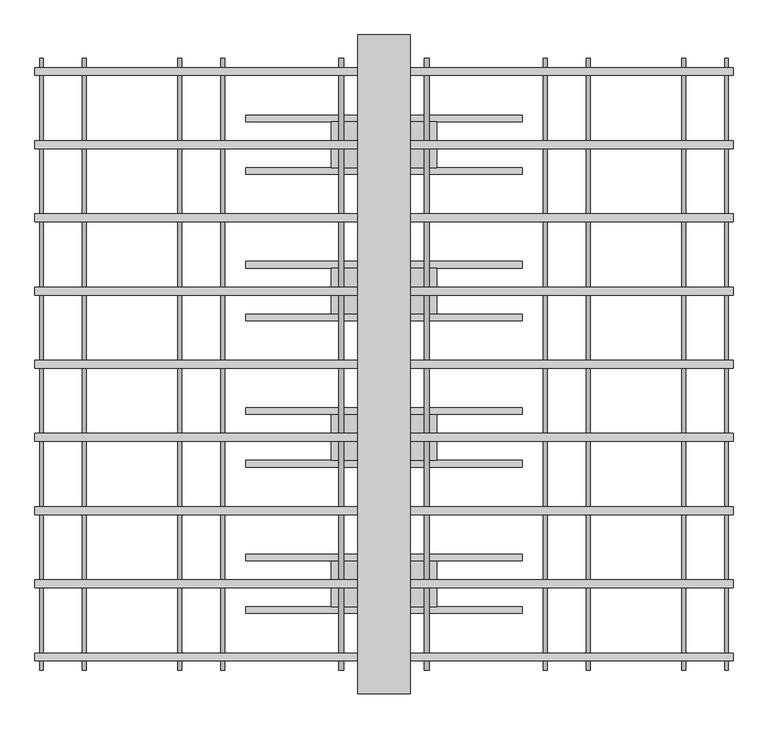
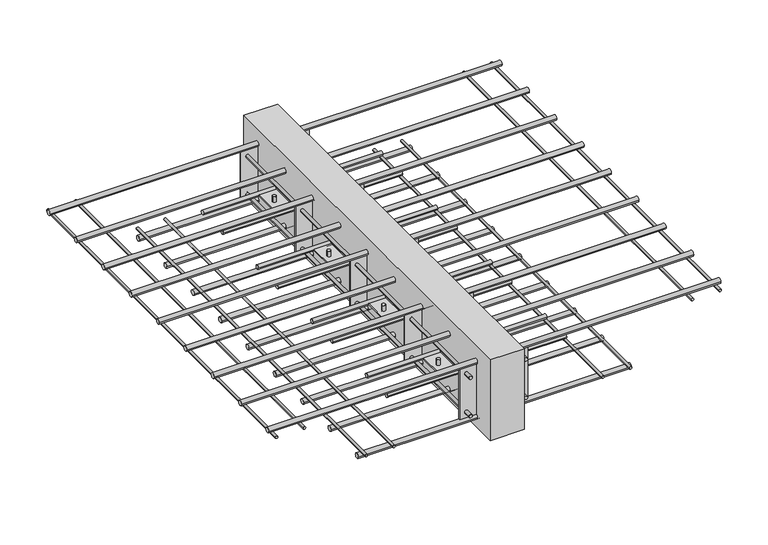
"""IFC4 building model written with IfcOpenShell, lengths in millimetres: fastener geometry, ACINOXplus_Typenreihe_K : KF+ S4."""

from ifc_helpers import new_model, si_unit, point, frame, frame_2d, origin, place, context, project, spatial, polyline, circle_curve, trimmed, segment, composite_curve, outline, extrude, source, transform, mapped, element, save
from ifc_brep_helpers import plane_surface, cylinder_surface, advanced_brep


def fastener_674a2dee(model_context):
    return source(origin(), model_context, "Body", "SolidModel", [
        extrude(outline(composite_curve([segment(trimmed(circle_curve(frame_2d((-373.3333333, -104.5)), 5.0), [point((-378.3333333, -104.5))], [point((-368.3333333, -104.5))], False, "CARTESIAN"), True, "CONTINUOUS"), segment(trimmed(circle_curve(frame_2d((-373.3333333, -104.5)), 5.0), [point((-368.3333333, -104.5))], [point((-378.3333333, -104.5))], False, "CARTESIAN"), True, "CONTINUOUS")], self_intersect=False)), frame((-210.0, 0.0, 0.0), z_axis=(1.0, 0.0, 0.0), x_axis=(0.0, 1.0, 0.0)), (0.0, 0.0, 1.0), 420.0),
        extrude(outline(composite_curve([segment(trimmed(circle_curve(frame_2d((-293.3333333, -104.5)), 5.0), [point((-298.3333333, -104.5))], [point((-288.3333333, -104.5))], False, "CARTESIAN"), True, "CONTINUOUS"), segment(trimmed(circle_curve(frame_2d((-293.3333333, -104.5)), 5.0), [point((-288.3333333, -104.5))], [point((-298.3333333, -104.5))], False, "CARTESIAN"), True, "CONTINUOUS")], self_intersect=False)), frame((-210.0, 0.0, 0.0), z_axis=(1.0, 0.0, 0.0), x_axis=(0.0, 1.0, 0.0)), (0.0, 0.0, 1.0), 420.0),
        advanced_brep(
        [(-69.0, -333.3333333, -89.5), (-61.0, -333.3333333, -89.5), (61.0, -333.3333333, -89.5), (69.0, -333.3333333, -89.5), (-69.0, -333.3333333, -119.5), (-61.0, -333.3333333, -119.5), (61.0, -333.3333333, -119.5), (69.0, -333.3333333, -119.5), (-69.0, -333.3333333, -103.0), (-61.0, -333.3333333, -103.0), (-61.0, -333.3333333, -106.0), (-69.0, -333.3333333, -106.0), (61.0, -333.3333333, -103.0), (69.0, -333.3333333, -103.0), (69.0, -333.3333333, -106.0), (61.0, -333.3333333, -106.0), (80.0, -298.3333333, -103.0), (-80.0, -298.3333333, -103.0), (-80.0, -368.3333333, -103.0), (80.0, -368.3333333, -103.0), (80.0, -298.3333333, -106.0), (80.0, -368.3333333, -106.0), (-80.0, -368.3333333, -106.0), (-80.0, -298.3333333, -106.0)],
        [
            (0, 1, circle_curve(frame((-65.0, -333.3333333, -89.5), z_axis=(0.0, 0.0, 1.0), x_axis=(1.0, 0.0, 0.0)), 4.0)),
            (1, 0, circle_curve(frame((-65.0, -333.3333333, -89.5), z_axis=(0.0, 0.0, 1.0), x_axis=(1.0, 0.0, 0.0)), 4.0)),
            (2, 3, circle_curve(frame((65.0, -333.3333333, -89.5), z_axis=(0.0, 0.0, 1.0), x_axis=(1.0, 0.0, 0.0)), 4.0)),
            (3, 2, circle_curve(frame((65.0, -333.3333333, -89.5), z_axis=(0.0, 0.0, 1.0), x_axis=(1.0, 0.0, 0.0)), 4.0)),
            (4, 5, circle_curve(frame((-65.0, -333.3333333, -119.5), z_axis=(0.0, 0.0, -1.0), x_axis=(1.0, 0.0, 0.0)), 4.0)),
            (5, 4, circle_curve(frame((-65.0, -333.3333333, -119.5), z_axis=(0.0, 0.0, -1.0), x_axis=(1.0, 0.0, 0.0)), 4.0)),
            (6, 7, circle_curve(frame((65.0, -333.3333333, -119.5), z_axis=(0.0, 0.0, -1.0), x_axis=(1.0, 0.0, 0.0)), 4.0)),
            (7, 6, circle_curve(frame((65.0, -333.3333333, -119.5), z_axis=(0.0, 0.0, -1.0), x_axis=(1.0, 0.0, 0.0)), 4.0)),
            (0, 8),
            (8, 9, circle_curve(frame((-65.0, -333.3333333, -103.0), z_axis=(0.0, 0.0, 1.0), x_axis=(1.0, 0.0, 0.0)), 4.0)),
            (9, 1),
            (5, 10),
            (10, 11, circle_curve(frame((-65.0, -333.3333333, -106.0), z_axis=(0.0, 0.0, -1.0), x_axis=(1.0, 0.0, 0.0)), 4.0)),
            (11, 4),
            (9, 8, circle_curve(frame((-65.0, -333.3333333, -103.0), z_axis=(0.0, 0.0, 1.0), x_axis=(1.0, 0.0, 0.0)), 4.0)),
            (11, 10, circle_curve(frame((-65.0, -333.3333333, -106.0), z_axis=(0.0, 0.0, -1.0), x_axis=(1.0, 0.0, 0.0)), 4.0)),
            (2, 12),
            (12, 13, circle_curve(frame((65.0, -333.3333333, -103.0), z_axis=(0.0, 0.0, 1.0), x_axis=(1.0, 0.0, 0.0)), 4.0)),
            (13, 3),
            (7, 14),
            (14, 15, circle_curve(frame((65.0, -333.3333333, -106.0), z_axis=(0.0, 0.0, -1.0), x_axis=(1.0, 0.0, 0.0)), 4.0)),
            (15, 6),
            (13, 12, circle_curve(frame((65.0, -333.3333333, -103.0), z_axis=(0.0, 0.0, 1.0), x_axis=(1.0, 0.0, 0.0)), 4.0)),
            (15, 14, circle_curve(frame((65.0, -333.3333333, -106.0), z_axis=(0.0, 0.0, -1.0), x_axis=(1.0, 0.0, 0.0)), 4.0)),
            (16, 17),
            (17, 18),
            (18, 19),
            (19, 16),
            (20, 21),
            (21, 22),
            (22, 23),
            (23, 20),
            (16, 20),
            (23, 17),
            (22, 18),
            (21, 19),
        ],
        [
            plane_surface(frame((-61.0, -333.3333333, -89.5), z_axis=(0.0, 0.0, 1.0), x_axis=(0.0, 1.0, 0.0))),
            plane_surface(frame((-61.0, -333.3333333, -119.5), z_axis=(0.0, 0.0, -1.0), x_axis=(0.0, -1.0, 0.0))),
            cylinder_surface(frame((-65.0, -333.3333333, -119.5), z_axis=(0.0, 0.0, 1.0), x_axis=(1.0, 0.0, 0.0)), 4.0),
            cylinder_surface(frame((65.0, -333.3333333, -104.5), z_axis=(0.0, 0.0, 1.0), x_axis=(1.0, 0.0, 0.0)), 4.0),
            plane_surface(frame((-80.0, -298.3333333, -103.0), z_axis=(0.0, 0.0, 1.0), x_axis=(-1.0, 0.0, 0.0))),
            plane_surface(frame((-80.0, -298.3333333, -106.0), z_axis=(0.0, 0.0, -1.0), x_axis=(1.0, 0.0, 0.0))),
            plane_surface(frame((80.0, -298.3333333, -103.0), z_axis=(0.0, 1.0, 0.0), x_axis=(0.0, 0.0, -1.0))),
            plane_surface(frame((-80.0, -298.3333333, -103.0), z_axis=(-1.0, 0.0, 0.0), x_axis=(0.0, 0.0, -1.0))),
            plane_surface(frame((-80.0, -368.3333333, -103.0), z_axis=(0.0, -1.0, 0.0), x_axis=(0.0, 0.0, -1.0))),
            plane_surface(frame((80.0, -368.3333333, -103.0), z_axis=(1.0, 0.0, 0.0), x_axis=(0.0, 0.0, -1.0))),
        ],
        [
            (0, [[1, 2]]),
            (0, [[3, 4]]),
            (1, [[5, 6]]),
            (1, [[7, 8]]),
            (2, [[-1, 9, 10, 11]]),
            (2, [[-6, 12, 13, 14]]),
            (2, [[-2, -11, 15, -9]]),
            (2, [[-5, -14, 16, -12]]),
            (3, [[-3, 17, 18, 19]]),
            (3, [[-8, 20, 21, 22]]),
            (3, [[-4, -19, 23, -17]]),
            (3, [[-7, -22, 24, -20]]),
            (4, [[25, 26, 27, 28], [-10, -15], [-18, -23]]),
            (5, [[29, 30, 31, 32], [-13, -16], [-21, -24]]),
            (6, [[-25, 33, -32, 34]]),
            (7, [[-26, -34, -31, 35]]),
            (8, [[-27, -35, -30, 36]]),
            (9, [[-28, -36, -29, -33]]),
        ],
    ),
        extrude(outline(composite_curve([segment(trimmed(circle_curve(frame_2d((293.3333333, -104.5)), 5.0), [point((288.3333333, -104.5))], [point((298.3333333, -104.5))], False, "CARTESIAN"), True, "CONTINUOUS"), segment(trimmed(circle_curve(frame_2d((293.3333333, -104.5)), 5.0), [point((298.3333333, -104.5))], [point((288.3333333, -104.5))], False, "CARTESIAN"), True, "CONTINUOUS")], self_intersect=False)), frame((-210.0, 0.0, 0.0), z_axis=(1.0, 0.0, 0.0), x_axis=(0.0, 1.0, 0.0)), (0.0, 0.0, 1.0), 420.0),
        extrude(outline(composite_curve([segment(trimmed(circle_curve(frame_2d((373.3333333, -104.5)), 5.0), [point((368.3333333, -104.5))], [point((378.3333333, -104.5))], False, "CARTESIAN"), True, "CONTINUOUS"), segment(trimmed(circle_curve(frame_2d((373.3333333, -104.5)), 5.0), [point((378.3333333, -104.5))], [point((368.3333333, -104.5))], False, "CARTESIAN"), True, "CONTINUOUS")], self_intersect=False)), frame((-210.0, 0.0, 0.0), z_axis=(1.0, 0.0, 0.0), x_axis=(0.0, 1.0, 0.0)), (0.0, 0.0, 1.0), 420.0),
        advanced_brep(
        [(-69.0, 333.3333333, -89.5), (-61.0, 333.3333333, -89.5), (61.0, 333.3333333, -89.5), (69.0, 333.3333333, -89.5), (-69.0, 333.3333333, -119.5), (-61.0, 333.3333333, -119.5), (61.0, 333.3333333, -119.5), (69.0, 333.3333333, -119.5), (-69.0, 333.3333333, -103.0), (-61.0, 333.3333333, -103.0), (-61.0, 333.3333333, -106.0), (-69.0, 333.3333333, -106.0), (61.0, 333.3333333, -103.0), (69.0, 333.3333333, -103.0), (69.0, 333.3333333, -106.0), (61.0, 333.3333333, -106.0), (80.0, 368.3333333, -103.0), (-80.0, 368.3333333, -103.0), (-80.0, 298.3333333, -103.0), (80.0, 298.3333333, -103.0), (80.0, 368.3333333, -106.0), (80.0, 298.3333333, -106.0), (-80.0, 298.3333333, -106.0), (-80.0, 368.3333333, -106.0)],
        [
            (0, 1, circle_curve(frame((-65.0, 333.3333333, -89.5), z_axis=(0.0, 0.0, 1.0), x_axis=(1.0, 0.0, 0.0)), 4.0)),
            (1, 0, circle_curve(frame((-65.0, 333.3333333, -89.5), z_axis=(0.0, 0.0, 1.0), x_axis=(1.0, 0.0, 0.0)), 4.0)),
            (2, 3, circle_curve(frame((65.0, 333.3333333, -89.5), z_axis=(0.0, 0.0, 1.0), x_axis=(1.0, 0.0, 0.0)), 4.0)),
            (3, 2, circle_curve(frame((65.0, 333.3333333, -89.5), z_axis=(0.0, 0.0, 1.0), x_axis=(1.0, 0.0, 0.0)), 4.0)),
            (4, 5, circle_curve(frame((-65.0, 333.3333333, -119.5), z_axis=(0.0, 0.0, -1.0), x_axis=(1.0, 0.0, 0.0)), 4.0)),
            (5, 4, circle_curve(frame((-65.0, 333.3333333, -119.5), z_axis=(0.0, 0.0, -1.0), x_axis=(1.0, 0.0, 0.0)), 4.0)),
            (6, 7, circle_curve(frame((65.0, 333.3333333, -119.5), z_axis=(0.0, 0.0, -1.0), x_axis=(1.0, 0.0, 0.0)), 4.0)),
            (7, 6, circle_curve(frame((65.0, 333.3333333, -119.5), z_axis=(0.0, 0.0, -1.0), x_axis=(1.0, 0.0, 0.0)), 4.0)),
            (0, 8),
            (8, 9, circle_curve(frame((-65.0, 333.3333333, -103.0), z_axis=(0.0, 0.0, 1.0), x_axis=(1.0, 0.0, 0.0)), 4.0)),
            (9, 1),
            (5, 10),
            (10, 11, circle_curve(frame((-65.0, 333.3333333, -106.0), z_axis=(0.0, 0.0, -1.0), x_axis=(1.0, 0.0, 0.0)), 4.0)),
            (11, 4),
            (9, 8, circle_curve(frame((-65.0, 333.3333333, -103.0), z_axis=(0.0, 0.0, 1.0), x_axis=(1.0, 0.0, 0.0)), 4.0)),
            (11, 10, circle_curve(frame((-65.0, 333.3333333, -106.0), z_axis=(0.0, 0.0, -1.0), x_axis=(1.0, 0.0, 0.0)), 4.0)),
            (2, 12),
            (12, 13, circle_curve(frame((65.0, 333.3333333, -103.0), z_axis=(0.0, 0.0, 1.0), x_axis=(1.0, 0.0, 0.0)), 4.0)),
            (13, 3),
            (7, 14),
            (14, 15, circle_curve(frame((65.0, 333.3333333, -106.0), z_axis=(0.0, 0.0, -1.0), x_axis=(1.0, 0.0, 0.0)), 4.0)),
            (15, 6),
            (13, 12, circle_curve(frame((65.0, 333.3333333, -103.0), z_axis=(0.0, 0.0, 1.0), x_axis=(1.0, 0.0, 0.0)), 4.0)),
            (15, 14, circle_curve(frame((65.0, 333.3333333, -106.0), z_axis=(0.0, 0.0, -1.0), x_axis=(1.0, 0.0, 0.0)), 4.0)),
            (16, 17),
            (17, 18),
            (18, 19),
            (19, 16),
            (20, 21),
            (21, 22),
            (22, 23),
            (23, 20),
            (16, 20),
            (23, 17),
            (22, 18),
            (21, 19),
        ],
        [
            plane_surface(frame((-61.0, 333.3333333, -89.5), z_axis=(0.0, 0.0, 1.0), x_axis=(0.0, 1.0, 0.0))),
            plane_surface(frame((-61.0, 333.3333333, -119.5), z_axis=(0.0, 0.0, -1.0), x_axis=(0.0, -1.0, 0.0))),
            cylinder_surface(frame((-65.0, 333.3333333, -119.5), z_axis=(0.0, 0.0, 1.0), x_axis=(1.0, 0.0, 0.0)), 4.0),
            cylinder_surface(frame((65.0, 333.3333333, -104.5), z_axis=(0.0, 0.0, 1.0), x_axis=(1.0, 0.0, 0.0)), 4.0),
            plane_surface(frame((-80.0, 368.3333333, -103.0), z_axis=(0.0, 0.0, 1.0), x_axis=(-1.0, 0.0, 0.0))),
            plane_surface(frame((-80.0, 368.3333333, -106.0), z_axis=(0.0, 0.0, -1.0), x_axis=(1.0, 0.0, 0.0))),
            plane_surface(frame((80.0, 368.3333333, -103.0), z_axis=(0.0, 1.0, 0.0), x_axis=(0.0, 0.0, -1.0))),
            plane_surface(frame((-80.0, 368.3333333, -103.0), z_axis=(-1.0, 0.0, 0.0), x_axis=(0.0, 0.0, -1.0))),
            plane_surface(frame((-80.0, 298.3333333, -103.0), z_axis=(0.0, -1.0, 0.0), x_axis=(0.0, 0.0, -1.0))),
            plane_surface(frame((80.0, 298.3333333, -103.0), z_axis=(1.0, 0.0, 0.0), x_axis=(0.0, 0.0, -1.0))),
        ],
        [
            (0, [[1, 2]]),
            (0, [[3, 4]]),
            (1, [[5, 6]]),
            (1, [[7, 8]]),
            (2, [[-1, 9, 10, 11]]),
            (2, [[-6, 12, 13, 14]]),
            (2, [[-2, -11, 15, -9]]),
            (2, [[-5, -14, 16, -12]]),
            (3, [[-3, 17, 18, 19]]),
            (3, [[-8, 20, 21, 22]]),
            (3, [[-4, -19, 23, -17]]),
            (3, [[-7, -22, 24, -20]]),
            (4, [[25, 26, 27, 28], [-10, -15], [-18, -23]]),
            (5, [[29, 30, 31, 32], [-13, -16], [-21, -24]]),
            (6, [[-25, 33, -32, 34]]),
            (7, [[-26, -34, -31, 35]]),
            (8, [[-27, -35, -30, 36]]),
            (9, [[-28, -36, -29, -33]]),
        ],
    ),
        extrude(outline(composite_curve([segment(trimmed(circle_curve(frame_2d((-151.1111111, -104.5)), 5.0), [point((-156.1111111, -104.5))], [point((-146.1111111, -104.5))], False, "CARTESIAN"), True, "CONTINUOUS"), segment(trimmed(circle_curve(frame_2d((-151.1111111, -104.5)), 5.0), [point((-146.1111111, -104.5))], [point((-156.1111111, -104.5))], False, "CARTESIAN"), True, "CONTINUOUS")], self_intersect=False)), frame((-210.0, 0.0, 0.0), z_axis=(1.0, 0.0, 0.0), x_axis=(0.0, 1.0, 0.0)), (0.0, 0.0, 1.0), 420.0),
        extrude(outline(composite_curve([segment(trimmed(circle_curve(frame_2d((-71.1111111, -104.5)), 5.0), [point((-76.1111111, -104.5))], [point((-66.1111111, -104.5))], False, "CARTESIAN"), True, "CONTINUOUS"), segment(trimmed(circle_curve(frame_2d((-71.1111111, -104.5)), 5.0), [point((-66.1111111, -104.5))], [point((-76.1111111, -104.5))], False, "CARTESIAN"), True, "CONTINUOUS")], self_intersect=False)), frame((-210.0, 0.0, 0.0), z_axis=(1.0, 0.0, 0.0), x_axis=(0.0, 1.0, 0.0)), (0.0, 0.0, 1.0), 420.0),
        advanced_brep(
        [(-69.0, -111.1111111, -89.5), (-61.0, -111.1111111, -89.5), (61.0, -111.1111111, -89.5), (69.0, -111.1111111, -89.5), (-69.0, -111.1111111, -119.5), (-61.0, -111.1111111, -119.5), (61.0, -111.1111111, -119.5), (69.0, -111.1111111, -119.5), (-69.0, -111.1111111, -103.0), (-61.0, -111.1111111, -103.0), (-61.0, -111.1111111, -106.0), (-69.0, -111.1111111, -106.0), (61.0, -111.1111111, -103.0), (69.0, -111.1111111, -103.0), (69.0, -111.1111111, -106.0), (61.0, -111.1111111, -106.0), (80.0, -76.1111111, -103.0), (-80.0, -76.1111111, -103.0), (-80.0, -146.1111111, -103.0), (80.0, -146.1111111, -103.0), (80.0, -76.1111111, -106.0), (80.0, -146.1111111, -106.0), (-80.0, -146.1111111, -106.0), (-80.0, -76.1111111, -106.0)],
        [
            (0, 1, circle_curve(frame((-65.0, -111.1111111, -89.5), z_axis=(0.0, 0.0, 1.0), x_axis=(1.0, 0.0, 0.0)), 4.0)),
            (1, 0, circle_curve(frame((-65.0, -111.1111111, -89.5), z_axis=(0.0, 0.0, 1.0), x_axis=(1.0, 0.0, 0.0)), 4.0)),
            (2, 3, circle_curve(frame((65.0, -111.1111111, -89.5), z_axis=(0.0, 0.0, 1.0), x_axis=(1.0, 0.0, 0.0)), 4.0)),
            (3, 2, circle_curve(frame((65.0, -111.1111111, -89.5), z_axis=(0.0, 0.0, 1.0), x_axis=(1.0, 0.0, 0.0)), 4.0)),
            (4, 5, circle_curve(frame((-65.0, -111.1111111, -119.5), z_axis=(0.0, 0.0, -1.0), x_axis=(1.0, 0.0, 0.0)), 4.0)),
            (5, 4, circle_curve(frame((-65.0, -111.1111111, -119.5), z_axis=(0.0, 0.0, -1.0), x_axis=(1.0, 0.0, 0.0)), 4.0)),
            (6, 7, circle_curve(frame((65.0, -111.1111111, -119.5), z_axis=(0.0, 0.0, -1.0), x_axis=(1.0, 0.0, 0.0)), 4.0)),
            (7, 6, circle_curve(frame((65.0, -111.1111111, -119.5), z_axis=(0.0, 0.0, -1.0), x_axis=(1.0, 0.0, 0.0)), 4.0)),
            (0, 8),
            (8, 9, circle_curve(frame((-65.0, -111.1111111, -103.0), z_axis=(0.0, 0.0, 1.0), x_axis=(1.0, 0.0, 0.0)), 4.0)),
            (9, 1),
            (5, 10),
            (10, 11, circle_curve(frame((-65.0, -111.1111111, -106.0), z_axis=(0.0, 0.0, -1.0), x_axis=(1.0, 0.0, 0.0)), 4.0)),
            (11, 4),
            (9, 8, circle_curve(frame((-65.0, -111.1111111, -103.0), z_axis=(0.0, 0.0, 1.0), x_axis=(1.0, 0.0, 0.0)), 4.0)),
            (11, 10, circle_curve(frame((-65.0, -111.1111111, -106.0), z_axis=(0.0, 0.0, -1.0), x_axis=(1.0, 0.0, 0.0)), 4.0)),
            (2, 12),
            (12, 13, circle_curve(frame((65.0, -111.1111111, -103.0), z_axis=(0.0, 0.0, 1.0), x_axis=(1.0, 0.0, 0.0)), 4.0)),
            (13, 3),
            (7, 14),
            (14, 15, circle_curve(frame((65.0, -111.1111111, -106.0), z_axis=(0.0, 0.0, -1.0), x_axis=(1.0, 0.0, 0.0)), 4.0)),
            (15, 6),
            (13, 12, circle_curve(frame((65.0, -111.1111111, -103.0), z_axis=(0.0, 0.0, 1.0), x_axis=(1.0, 0.0, 0.0)), 4.0)),
            (15, 14, circle_curve(frame((65.0, -111.1111111, -106.0), z_axis=(0.0, 0.0, -1.0), x_axis=(1.0, 0.0, 0.0)), 4.0)),
            (16, 17),
            (17, 18),
            (18, 19),
            (19, 16),
            (20, 21),
            (21, 22),
            (22, 23),
            (23, 20),
            (16, 20),
            (23, 17),
            (22, 18),
            (21, 19),
        ],
        [
            plane_surface(frame((-61.0, -111.1111111, -89.5), z_axis=(0.0, 0.0, 1.0), x_axis=(0.0, 1.0, 0.0))),
            plane_surface(frame((-61.0, -111.1111111, -119.5), z_axis=(0.0, 0.0, -1.0), x_axis=(0.0, -1.0, 0.0))),
            cylinder_surface(frame((-65.0, -111.1111111, -119.5), z_axis=(0.0, 0.0, 1.0), x_axis=(1.0, 0.0, 0.0)), 4.0),
            cylinder_surface(frame((65.0, -111.1111111, -104.5), z_axis=(0.0, 0.0, 1.0), x_axis=(1.0, 0.0, 0.0)), 4.0),
            plane_surface(frame((-80.0, -76.1111111, -103.0), z_axis=(0.0, 0.0, 1.0), x_axis=(-1.0, 0.0, 0.0))),
            plane_surface(frame((-80.0, -76.1111111, -106.0), z_axis=(0.0, 0.0, -1.0), x_axis=(1.0, 0.0, 0.0))),
            plane_surface(frame((80.0, -76.1111111, -103.0), z_axis=(0.0, 1.0, 0.0), x_axis=(0.0, 0.0, -1.0))),
            plane_surface(frame((-80.0, -76.1111111, -103.0), z_axis=(-1.0, 0.0, 0.0), x_axis=(0.0, 0.0, -1.0))),
            plane_surface(frame((-80.0, -146.1111111, -103.0), z_axis=(0.0, -1.0, 0.0), x_axis=(0.0, 0.0, -1.0))),
            plane_surface(frame((80.0, -146.1111111, -103.0), z_axis=(1.0, 0.0, 0.0), x_axis=(0.0, 0.0, -1.0))),
        ],
        [
            (0, [[1, 2]]),
            (0, [[3, 4]]),
            (1, [[5, 6]]),
            (1, [[7, 8]]),
            (2, [[-1, 9, 10, 11]]),
            (2, [[-6, 12, 13, 14]]),
            (2, [[-2, -11, 15, -9]]),
            (2, [[-5, -14, 16, -12]]),
            (3, [[-3, 17, 18, 19]]),
            (3, [[-8, 20, 21, 22]]),
            (3, [[-4, -19, 23, -17]]),
            (3, [[-7, -22, 24, -20]]),
            (4, [[25, 26, 27, 28], [-10, -15], [-18, -23]]),
            (5, [[29, 30, 31, 32], [-13, -16], [-21, -24]]),
            (6, [[-25, 33, -32, 34]]),
            (7, [[-26, -34, -31, 35]]),
            (8, [[-27, -35, -30, 36]]),
            (9, [[-28, -36, -29, -33]]),
        ],
    ),
        extrude(outline(composite_curve([segment(trimmed(circle_curve(frame_2d((71.1111111, -104.5)), 5.0), [point((66.1111111, -104.5))], [point((76.1111111, -104.5))], False, "CARTESIAN"), True, "CONTINUOUS"), segment(trimmed(circle_curve(frame_2d((71.1111111, -104.5)), 5.0), [point((76.1111111, -104.5))], [point((66.1111111, -104.5))], False, "CARTESIAN"), True, "CONTINUOUS")], self_intersect=False)), frame((-210.0, 0.0, 0.0), z_axis=(1.0, 0.0, 0.0), x_axis=(0.0, 1.0, 0.0)), (0.0, 0.0, 1.0), 420.0),
        extrude(outline(composite_curve([segment(trimmed(circle_curve(frame_2d((151.1111111, -104.5)), 5.0), [point((146.1111111, -104.5))], [point((156.1111111, -104.5))], False, "CARTESIAN"), True, "CONTINUOUS"), segment(trimmed(circle_curve(frame_2d((151.1111111, -104.5)), 5.0), [point((156.1111111, -104.5))], [point((146.1111111, -104.5))], False, "CARTESIAN"), True, "CONTINUOUS")], self_intersect=False)), frame((-210.0, 0.0, 0.0), z_axis=(1.0, 0.0, 0.0), x_axis=(0.0, 1.0, 0.0)), (0.0, 0.0, 1.0), 420.0),
        advanced_brep(
        [(-69.0, 111.1111111, -89.5), (-61.0, 111.1111111, -89.5), (61.0, 111.1111111, -89.5), (69.0, 111.1111111, -89.5), (-69.0, 111.1111111, -119.5), (-61.0, 111.1111111, -119.5), (61.0, 111.1111111, -119.5), (69.0, 111.1111111, -119.5), (-69.0, 111.1111111, -103.0), (-61.0, 111.1111111, -103.0), (-61.0, 111.1111111, -106.0), (-69.0, 111.1111111, -106.0), (61.0, 111.1111111, -103.0), (69.0, 111.1111111, -103.0), (69.0, 111.1111111, -106.0), (61.0, 111.1111111, -106.0), (80.0, 146.1111111, -103.0), (-80.0, 146.1111111, -103.0), (-80.0, 76.1111111, -103.0), (80.0, 76.1111111, -103.0), (80.0, 146.1111111, -106.0), (80.0, 76.1111111, -106.0), (-80.0, 76.1111111, -106.0), (-80.0, 146.1111111, -106.0)],
        [
            (0, 1, circle_curve(frame((-65.0, 111.1111111, -89.5), z_axis=(0.0, 0.0, 1.0), x_axis=(1.0, 0.0, 0.0)), 4.0)),
            (1, 0, circle_curve(frame((-65.0, 111.1111111, -89.5), z_axis=(0.0, 0.0, 1.0), x_axis=(1.0, 0.0, 0.0)), 4.0)),
            (2, 3, circle_curve(frame((65.0, 111.1111111, -89.5), z_axis=(0.0, 0.0, 1.0), x_axis=(1.0, 0.0, 0.0)), 4.0)),
            (3, 2, circle_curve(frame((65.0, 111.1111111, -89.5), z_axis=(0.0, 0.0, 1.0), x_axis=(1.0, 0.0, 0.0)), 4.0)),
            (4, 5, circle_curve(frame((-65.0, 111.1111111, -119.5), z_axis=(0.0, 0.0, -1.0), x_axis=(1.0, 0.0, 0.0)), 4.0)),
            (5, 4, circle_curve(frame((-65.0, 111.1111111, -119.5), z_axis=(0.0, 0.0, -1.0), x_axis=(1.0, 0.0, 0.0)), 4.0)),
            (6, 7, circle_curve(frame((65.0, 111.1111111, -119.5), z_axis=(0.0, 0.0, -1.0), x_axis=(1.0, 0.0, 0.0)), 4.0)),
            (7, 6, circle_curve(frame((65.0, 111.1111111, -119.5), z_axis=(0.0, 0.0, -1.0), x_axis=(1.0, 0.0, 0.0)), 4.0)),
            (0, 8),
            (8, 9, circle_curve(frame((-65.0, 111.1111111, -103.0), z_axis=(0.0, 0.0, 1.0), x_axis=(1.0, 0.0, 0.0)), 4.0)),
            (9, 1),
            (5, 10),
            (10, 11, circle_curve(frame((-65.0, 111.1111111, -106.0), z_axis=(0.0, 0.0, -1.0), x_axis=(1.0, 0.0, 0.0)), 4.0)),
            (11, 4),
            (9, 8, circle_curve(frame((-65.0, 111.1111111, -103.0), z_axis=(0.0, 0.0, 1.0), x_axis=(1.0, 0.0, 0.0)), 4.0)),
            (11, 10, circle_curve(frame((-65.0, 111.1111111, -106.0), z_axis=(0.0, 0.0, -1.0), x_axis=(1.0, 0.0, 0.0)), 4.0)),
            (2, 12),
            (12, 13, circle_curve(frame((65.0, 111.1111111, -103.0), z_axis=(0.0, 0.0, 1.0), x_axis=(1.0, 0.0, 0.0)), 4.0)),
            (13, 3),
            (7, 14),
            (14, 15, circle_curve(frame((65.0, 111.1111111, -106.0), z_axis=(0.0, 0.0, -1.0), x_axis=(1.0, 0.0, 0.0)), 4.0)),
            (15, 6),
            (13, 12, circle_curve(frame((65.0, 111.1111111, -103.0), z_axis=(0.0, 0.0, 1.0), x_axis=(1.0, 0.0, 0.0)), 4.0)),
            (15, 14, circle_curve(frame((65.0, 111.1111111, -106.0), z_axis=(0.0, 0.0, -1.0), x_axis=(1.0, 0.0, 0.0)), 4.0)),
            (16, 17),
            (17, 18),
            (18, 19),
            (19, 16),
            (20, 21),
            (21, 22),
            (22, 23),
            (23, 20),
            (16, 20),
            (23, 17),
            (22, 18),
            (21, 19),
        ],
        [
            plane_surface(frame((-61.0, 111.1111111, -89.5), z_axis=(0.0, 0.0, 1.0), x_axis=(0.0, 1.0, 0.0))),
            plane_surface(frame((-61.0, 111.1111111, -119.5), z_axis=(0.0, 0.0, -1.0), x_axis=(0.0, -1.0, 0.0))),
            cylinder_surface(frame((-65.0, 111.1111111, -119.5), z_axis=(0.0, 0.0, 1.0), x_axis=(1.0, 0.0, 0.0)), 4.0),
            cylinder_surface(frame((65.0, 111.1111111, -104.5), z_axis=(0.0, 0.0, 1.0), x_axis=(1.0, 0.0, 0.0)), 4.0),
            plane_surface(frame((-80.0, 146.1111111, -103.0), z_axis=(0.0, 0.0, 1.0), x_axis=(-1.0, 0.0, 0.0))),
            plane_surface(frame((-80.0, 146.1111111, -106.0), z_axis=(0.0, 0.0, -1.0), x_axis=(1.0, 0.0, 0.0))),
            plane_surface(frame((80.0, 146.1111111, -103.0), z_axis=(0.0, 1.0, 0.0), x_axis=(0.0, 0.0, -1.0))),
            plane_surface(frame((-80.0, 146.1111111, -103.0), z_axis=(-1.0, 0.0, 0.0), x_axis=(0.0, 0.0, -1.0))),
            plane_surface(frame((-80.0, 76.1111111, -103.0), z_axis=(0.0, -1.0, 0.0), x_axis=(0.0, 0.0, -1.0))),
            plane_surface(frame((80.0, 76.1111111, -103.0), z_axis=(1.0, 0.0, 0.0), x_axis=(0.0, 0.0, -1.0))),
        ],
        [
            (0, [[1, 2]]),
            (0, [[3, 4]]),
            (1, [[5, 6]]),
            (1, [[7, 8]]),
            (2, [[-1, 9, 10, 11]]),
            (2, [[-6, 12, 13, 14]]),
            (2, [[-2, -11, 15, -9]]),
            (2, [[-5, -14, 16, -12]]),
            (3, [[-3, 17, 18, 19]]),
            (3, [[-8, 20, 21, 22]]),
            (3, [[-4, -19, 23, -17]]),
            (3, [[-7, -22, 24, -20]]),
            (4, [[25, 26, 27, 28], [-10, -15], [-18, -23]]),
            (5, [[29, 30, 31, 32], [-13, -16], [-21, -24]]),
            (6, [[-25, 33, -32, 34]]),
            (7, [[-26, -34, -31, 35]]),
            (8, [[-27, -35, -30, 36]]),
            (9, [[-28, -36, -29, -33]]),
        ],
    ),
        extrude(outline(polyline([(40.0, 500.0), (40.0, -500.0), (-40.0, -500.0), (-40.0, 500.0), (40.0, 500.0)])), frame((0.0, 0.0, -200.0), z_axis=(0.0, 0.0, 1.0), x_axis=(1.0, 0.0, 0.0)), (0.0, 0.0, 1.0), 200.0),
        extrude(outline(polyline([(80.0, -220.7222222), (80.0, -223.7222222), (-80.0, -223.7222222), (-80.0, -220.7222222), (80.0, -220.7222222)])), frame((0.0, 0.0, -167.0), z_axis=(0.0, 0.0, 1.0), x_axis=(1.0, 0.0, 0.0)), (0.0, 0.0, 1.0), 125.0),
        extrude(outline(polyline([(80.0, 1.5), (80.0, -1.5), (-80.0, -1.5), (-80.0, 1.5), (80.0, 1.5)])), frame((0.0, 0.0, -167.0), z_axis=(0.0, 0.0, 1.0), x_axis=(1.0, 0.0, 0.0)), (0.0, 0.0, 1.0), 125.0),
        extrude(outline(polyline([(80.0, 223.7222222), (80.0, 220.7222222), (-80.0, 220.7222222), (-80.0, 223.7222222), (80.0, 223.7222222)])), frame((0.0, 0.0, -167.0), z_axis=(0.0, 0.0, 1.0), x_axis=(1.0, 0.0, 0.0)), (0.0, 0.0, 1.0), 125.0),
        extrude(outline(polyline([(80.0, -442.9444444), (80.0, -445.9444444), (-80.0, -445.9444444), (-80.0, -442.9444444), (80.0, -442.9444444)])), frame((0.0, 0.0, -167.0), z_axis=(0.0, 0.0, 1.0), x_axis=(1.0, 0.0, 0.0)), (0.0, 0.0, 1.0), 125.0),
        extrude(outline(polyline([(80.0, 445.9444444), (80.0, 442.9444444), (-80.0, 442.9444444), (-80.0, 445.9444444), (80.0, 445.9444444)])), frame((0.0, 0.0, -167.0), z_axis=(0.0, 0.0, 1.0), x_axis=(1.0, 0.0, 0.0)), (0.0, 0.0, 1.0), 125.0),
        extrude(outline(composite_curve([segment(trimmed(circle_curve(frame_2d((-152.0, -65.0)), 4.0), [point((-152.0, -61.0))], [point((-152.0, -69.0))], False, "CARTESIAN"), True, "CONTINUOUS"), segment(trimmed(circle_curve(frame_2d((-152.0, -65.0)), 4.0), [point((-152.0, -69.0))], [point((-152.0, -61.0))], False, "CARTESIAN"), True, "CONTINUOUS")], self_intersect=False)), frame((0.0, -464.4444444, 0.0), z_axis=(0.0, 1.0, 0.0), x_axis=(0.0, 0.0, 1.0)), (0.0, 0.0, 1.0), 18.5),
        extrude(outline(composite_curve([segment(trimmed(circle_curve(frame_2d((-152.0, -65.0)), 4.0), [point((-152.0, -69.0))], [point((-152.0, -61.0))], False, "CARTESIAN"), True, "CONTINUOUS"), segment(trimmed(circle_curve(frame_2d((-152.0, -65.0)), 4.0), [point((-152.0, -61.0))], [point((-152.0, -69.0))], False, "CARTESIAN"), True, "CONTINUOUS")], self_intersect=False)), frame((0.0, -442.9444444, 0.0), z_axis=(0.0, 1.0, 0.0), x_axis=(0.0, 0.0, 1.0)), (0.0, 0.0, 1.0), 663.6666667),
        extrude(outline(composite_curve([segment(trimmed(circle_curve(frame_2d((-152.0, -65.0)), 4.0), [point((-152.0, -69.0))], [point((-152.0, -61.0))], False, "CARTESIAN"), True, "CONTINUOUS"), segment(trimmed(circle_curve(frame_2d((-152.0, -65.0)), 4.0), [point((-152.0, -61.0))], [point((-152.0, -69.0))], False, "CARTESIAN"), True, "CONTINUOUS")], self_intersect=False)), frame((0.0, 445.9444444, 0.0), z_axis=(0.0, 1.0, 0.0), x_axis=(0.0, 0.0, 1.0)), (0.0, 0.0, 1.0), 18.5),
        extrude(outline(composite_curve([segment(trimmed(circle_curve(frame_2d((-152.0, -65.0)), 4.0), [point((-152.0, -69.0))], [point((-152.0, -61.0))], False, "CARTESIAN"), True, "CONTINUOUS"), segment(trimmed(circle_curve(frame_2d((-152.0, -65.0)), 4.0), [point((-152.0, -61.0))], [point((-152.0, -69.0))], False, "CARTESIAN"), True, "CONTINUOUS")], self_intersect=False)), frame((0.0, 223.7222222, 0.0), z_axis=(0.0, 1.0, 0.0), x_axis=(0.0, 0.0, 1.0)), (0.0, 0.0, 1.0), 219.2222222),
        extrude(outline(composite_curve([segment(trimmed(circle_curve(frame_2d((-152.0, 65.0)), 4.0), [point((-152.0, 69.0))], [point((-152.0, 61.0))], False, "CARTESIAN"), True, "CONTINUOUS"), segment(trimmed(circle_curve(frame_2d((-152.0, 65.0)), 4.0), [point((-152.0, 61.0))], [point((-152.0, 69.0))], False, "CARTESIAN"), True, "CONTINUOUS")], self_intersect=False)), frame((0.0, -464.4444444, 0.0), z_axis=(0.0, 1.0, 0.0), x_axis=(0.0, 0.0, 1.0)), (0.0, 0.0, 1.0), 18.5),
        extrude(outline(composite_curve([segment(trimmed(circle_curve(frame_2d((-152.0, 65.0)), 4.0), [point((-152.0, 61.0))], [point((-152.0, 69.0))], False, "CARTESIAN"), True, "CONTINUOUS"), segment(trimmed(circle_curve(frame_2d((-152.0, 65.0)), 4.0), [point((-152.0, 69.0))], [point((-152.0, 61.0))], False, "CARTESIAN"), True, "CONTINUOUS")], self_intersect=False)), frame((0.0, -442.9444444, 0.0), z_axis=(0.0, 1.0, 0.0), x_axis=(0.0, 0.0, 1.0)), (0.0, 0.0, 1.0), 663.6666667),
        extrude(outline(composite_curve([segment(trimmed(circle_curve(frame_2d((-152.0, 65.0)), 4.0), [point((-152.0, 61.0))], [point((-152.0, 69.0))], False, "CARTESIAN"), True, "CONTINUOUS"), segment(trimmed(circle_curve(frame_2d((-152.0, 65.0)), 4.0), [point((-152.0, 69.0))], [point((-152.0, 61.0))], False, "CARTESIAN"), True, "CONTINUOUS")], self_intersect=False)), frame((0.0, 445.9444444, 0.0), z_axis=(0.0, 1.0, 0.0), x_axis=(0.0, 0.0, 1.0)), (0.0, 0.0, 1.0), 18.5),
        extrude(outline(composite_curve([segment(trimmed(circle_curve(frame_2d((-152.0, 65.0)), 4.0), [point((-152.0, 61.0))], [point((-152.0, 69.0))], False, "CARTESIAN"), True, "CONTINUOUS"), segment(trimmed(circle_curve(frame_2d((-152.0, 65.0)), 4.0), [point((-152.0, 69.0))], [point((-152.0, 61.0))], False, "CARTESIAN"), True, "CONTINUOUS")], self_intersect=False)), frame((0.0, 223.7222222, 0.0), z_axis=(0.0, 1.0, 0.0), x_axis=(0.0, 0.0, 1.0)), (0.0, 0.0, 1.0), 219.2222222),
        extrude(outline(composite_curve([segment(trimmed(circle_curve(frame_2d((-57.0, -65.0)), 4.0), [point((-57.0, -61.0))], [point((-57.0, -69.0))], False, "CARTESIAN"), True, "CONTINUOUS"), segment(trimmed(circle_curve(frame_2d((-57.0, -65.0)), 4.0), [point((-57.0, -69.0))], [point((-57.0, -61.0))], False, "CARTESIAN"), True, "CONTINUOUS")], self_intersect=False)), frame((0.0, -464.4444444, 0.0), z_axis=(0.0, 1.0, 0.0), x_axis=(0.0, 0.0, 1.0)), (0.0, 0.0, 1.0), 18.5),
        extrude(outline(composite_curve([segment(trimmed(circle_curve(frame_2d((-57.0, -65.0)), 4.0), [point((-57.0, -69.0))], [point((-57.0, -61.0))], False, "CARTESIAN"), True, "CONTINUOUS"), segment(trimmed(circle_curve(frame_2d((-57.0, -65.0)), 4.0), [point((-57.0, -61.0))], [point((-57.0, -69.0))], False, "CARTESIAN"), True, "CONTINUOUS")], self_intersect=False)), frame((0.0, -442.9444444, 0.0), z_axis=(0.0, 1.0, 0.0), x_axis=(0.0, 0.0, 1.0)), (0.0, 0.0, 1.0), 663.6666667),
        extrude(outline(composite_curve([segment(trimmed(circle_curve(frame_2d((-57.0, -65.0)), 4.0), [point((-57.0, -69.0))], [point((-57.0, -61.0))], False, "CARTESIAN"), True, "CONTINUOUS"), segment(trimmed(circle_curve(frame_2d((-57.0, -65.0)), 4.0), [point((-57.0, -61.0))], [point((-57.0, -69.0))], False, "CARTESIAN"), True, "CONTINUOUS")], self_intersect=False)), frame((0.0, 445.9444444, 0.0), z_axis=(0.0, 1.0, 0.0), x_axis=(0.0, 0.0, 1.0)), (0.0, 0.0, 1.0), 18.5),
        extrude(outline(composite_curve([segment(trimmed(circle_curve(frame_2d((-57.0, -65.0)), 4.0), [point((-57.0, -69.0))], [point((-57.0, -61.0))], False, "CARTESIAN"), True, "CONTINUOUS"), segment(trimmed(circle_curve(frame_2d((-57.0, -65.0)), 4.0), [point((-57.0, -61.0))], [point((-57.0, -69.0))], False, "CARTESIAN"), True, "CONTINUOUS")], self_intersect=False)), frame((0.0, 223.7222222, 0.0), z_axis=(0.0, 1.0, 0.0), x_axis=(0.0, 0.0, 1.0)), (0.0, 0.0, 1.0), 219.2222222),
        extrude(outline(composite_curve([segment(trimmed(circle_curve(frame_2d((-57.0, 65.0)), 4.0), [point((-57.0, 69.0))], [point((-57.0, 61.0))], False, "CARTESIAN"), True, "CONTINUOUS"), segment(trimmed(circle_curve(frame_2d((-57.0, 65.0)), 4.0), [point((-57.0, 61.0))], [point((-57.0, 69.0))], False, "CARTESIAN"), True, "CONTINUOUS")], self_intersect=False)), frame((0.0, -464.4444444, 0.0), z_axis=(0.0, 1.0, 0.0), x_axis=(0.0, 0.0, 1.0)), (0.0, 0.0, 1.0), 18.5),
        extrude(outline(composite_curve([segment(trimmed(circle_curve(frame_2d((-57.0, 65.0)), 4.0), [point((-57.0, 61.0))], [point((-57.0, 69.0))], False, "CARTESIAN"), True, "CONTINUOUS"), segment(trimmed(circle_curve(frame_2d((-57.0, 65.0)), 4.0), [point((-57.0, 69.0))], [point((-57.0, 61.0))], False, "CARTESIAN"), True, "CONTINUOUS")], self_intersect=False)), frame((0.0, -442.9444444, 0.0), z_axis=(0.0, 1.0, 0.0), x_axis=(0.0, 0.0, 1.0)), (0.0, 0.0, 1.0), 663.6666667),
        extrude(outline(composite_curve([segment(trimmed(circle_curve(frame_2d((-57.0, 65.0)), 4.0), [point((-57.0, 61.0))], [point((-57.0, 69.0))], False, "CARTESIAN"), True, "CONTINUOUS"), segment(trimmed(circle_curve(frame_2d((-57.0, 65.0)), 4.0), [point((-57.0, 69.0))], [point((-57.0, 61.0))], False, "CARTESIAN"), True, "CONTINUOUS")], self_intersect=False)), frame((0.0, 445.9444444, 0.0), z_axis=(0.0, 1.0, 0.0), x_axis=(0.0, 0.0, 1.0)), (0.0, 0.0, 1.0), 18.5),
        extrude(outline(composite_curve([segment(trimmed(circle_curve(frame_2d((-57.0, 65.0)), 4.0), [point((-57.0, 61.0))], [point((-57.0, 69.0))], False, "CARTESIAN"), True, "CONTINUOUS"), segment(trimmed(circle_curve(frame_2d((-57.0, 65.0)), 4.0), [point((-57.0, 69.0))], [point((-57.0, 61.0))], False, "CARTESIAN"), True, "CONTINUOUS")], self_intersect=False)), frame((0.0, 223.7222222, 0.0), z_axis=(0.0, 1.0, 0.0), x_axis=(0.0, 0.0, 1.0)), (0.0, 0.0, 1.0), 219.2222222),
        extrude(outline(composite_curve([segment(trimmed(circle_curve(frame_2d((222.2222222, -173.0)), 6.0), [point((216.2222222, -173.0))], [point((228.2222222, -173.0))], False, "CARTESIAN"), True, "CONTINUOUS"), segment(trimmed(circle_curve(frame_2d((222.2222222, -173.0)), 6.0), [point((228.2222222, -173.0))], [point((216.2222222, -173.0))], False, "CARTESIAN"), True, "CONTINUOUS")], self_intersect=False)), frame((-320.0, 0.0, 0.0), z_axis=(1.0, 0.0, 0.0), x_axis=(0.0, 1.0, 0.0)), (0.0, 0.0, 1.0), 640.0),
        extrude(outline(composite_curve([segment(trimmed(circle_curve(frame_2d((111.1111111, -173.0)), 6.0), [point((105.1111111, -173.0))], [point((117.1111111, -173.0))], False, "CARTESIAN"), True, "CONTINUOUS"), segment(trimmed(circle_curve(frame_2d((111.1111111, -173.0)), 6.0), [point((117.1111111, -173.0))], [point((105.1111111, -173.0))], False, "CARTESIAN"), True, "CONTINUOUS")], self_intersect=False)), frame((-320.0, 0.0, 0.0), z_axis=(1.0, 0.0, 0.0), x_axis=(0.0, 1.0, 0.0)), (0.0, 0.0, 1.0), 640.0),
        extrude(outline(composite_curve([segment(trimmed(circle_curve(frame_2d((0.0, -173.0)), 6.0), [point((-6.0, -173.0))], [point((6.0, -173.0))], False, "CARTESIAN"), True, "CONTINUOUS"), segment(trimmed(circle_curve(frame_2d((0.0, -173.0)), 6.0), [point((6.0, -173.0))], [point((-6.0, -173.0))], False, "CARTESIAN"), True, "CONTINUOUS")], self_intersect=False)), frame((-320.0, 0.0, 0.0), z_axis=(1.0, 0.0, 0.0), x_axis=(0.0, 1.0, 0.0)), (0.0, 0.0, 1.0), 640.0),
        extrude(outline(composite_curve([segment(trimmed(circle_curve(frame_2d((-111.1111111, -173.0)), 6.0), [point((-117.1111111, -173.0))], [point((-105.1111111, -173.0))], False, "CARTESIAN"), True, "CONTINUOUS"), segment(trimmed(circle_curve(frame_2d((-111.1111111, -173.0)), 6.0), [point((-105.1111111, -173.0))], [point((-117.1111111, -173.0))], False, "CARTESIAN"), True, "CONTINUOUS")], self_intersect=False)), frame((-320.0, 0.0, 0.0), z_axis=(1.0, 0.0, 0.0), x_axis=(0.0, 1.0, 0.0)), (0.0, 0.0, 1.0), 640.0),
        extrude(outline(composite_curve([segment(trimmed(circle_curve(frame_2d((-222.2222222, -173.0)), 6.0), [point((-228.2222222, -173.0))], [point((-216.2222222, -173.0))], False, "CARTESIAN"), True, "CONTINUOUS"), segment(trimmed(circle_curve(frame_2d((-222.2222222, -173.0)), 6.0), [point((-216.2222222, -173.0))], [point((-228.2222222, -173.0))], False, "CARTESIAN"), True, "CONTINUOUS")], self_intersect=False)), frame((-320.0, 0.0, 0.0), z_axis=(1.0, 0.0, 0.0), x_axis=(0.0, 1.0, 0.0)), (0.0, 0.0, 1.0), 640.0),
        extrude(outline(composite_curve([segment(trimmed(circle_curve(frame_2d((333.3333333, -173.0)), 6.0), [point((327.3333333, -173.0))], [point((339.3333333, -173.0))], False, "CARTESIAN"), True, "CONTINUOUS"), segment(trimmed(circle_curve(frame_2d((333.3333333, -173.0)), 6.0), [point((339.3333333, -173.0))], [point((327.3333333, -173.0))], False, "CARTESIAN"), True, "CONTINUOUS")], self_intersect=False)), frame((-320.0, 0.0, 0.0), z_axis=(1.0, 0.0, 0.0), x_axis=(0.0, 1.0, 0.0)), (0.0, 0.0, 1.0), 640.0),
        extrude(outline(composite_curve([segment(trimmed(circle_curve(frame_2d((444.4444444, -173.0)), 6.0), [point((438.4444444, -173.0))], [point((450.4444444, -173.0))], False, "CARTESIAN"), True, "CONTINUOUS"), segment(trimmed(circle_curve(frame_2d((444.4444444, -173.0)), 6.0), [point((450.4444444, -173.0))], [point((438.4444444, -173.0))], False, "CARTESIAN"), True, "CONTINUOUS")], self_intersect=False)), frame((-320.0, 0.0, 0.0), z_axis=(1.0, 0.0, 0.0), x_axis=(0.0, 1.0, 0.0)), (0.0, 0.0, 1.0), 640.0),
        extrude(outline(composite_curve([segment(trimmed(circle_curve(frame_2d((-333.3333333, -173.0)), 6.0), [point((-339.3333333, -173.0))], [point((-327.3333333, -173.0))], False, "CARTESIAN"), True, "CONTINUOUS"), segment(trimmed(circle_curve(frame_2d((-333.3333333, -173.0)), 6.0), [point((-327.3333333, -173.0))], [point((-339.3333333, -173.0))], False, "CARTESIAN"), True, "CONTINUOUS")], self_intersect=False)), frame((-320.0, 0.0, 0.0), z_axis=(1.0, 0.0, 0.0), x_axis=(0.0, 1.0, 0.0)), (0.0, 0.0, 1.0), 640.0),
        extrude(outline(composite_curve([segment(trimmed(circle_curve(frame_2d((-444.4444444, -173.0)), 6.0), [point((-450.4444444, -173.0))], [point((-438.4444444, -173.0))], False, "CARTESIAN"), True, "CONTINUOUS"), segment(trimmed(circle_curve(frame_2d((-444.4444444, -173.0)), 6.0), [point((-438.4444444, -173.0))], [point((-450.4444444, -173.0))], False, "CARTESIAN"), True, "CONTINUOUS")], self_intersect=False)), frame((-320.0, 0.0, 0.0), z_axis=(1.0, 0.0, 0.0), x_axis=(0.0, 1.0, 0.0)), (0.0, 0.0, 1.0), 640.0),
        extrude(outline(composite_curve([segment(trimmed(circle_curve(frame_2d((222.2222222, -36.0)), 6.0), [point((216.2222222, -36.0))], [point((228.2222222, -36.0))], False, "CARTESIAN"), True, "CONTINUOUS"), segment(trimmed(circle_curve(frame_2d((222.2222222, -36.0)), 6.0), [point((228.2222222, -36.0))], [point((216.2222222, -36.0))], False, "CARTESIAN"), True, "CONTINUOUS")], self_intersect=False)), frame((-530.0, 0.0, 0.0), z_axis=(1.0, 0.0, 0.0), x_axis=(0.0, 1.0, 0.0)), (0.0, 0.0, 1.0), 1060.0),
        extrude(outline(composite_curve([segment(trimmed(circle_curve(frame_2d((111.1111111, -36.0)), 6.0), [point((105.1111111, -36.0))], [point((117.1111111, -36.0))], False, "CARTESIAN"), True, "CONTINUOUS"), segment(trimmed(circle_curve(frame_2d((111.1111111, -36.0)), 6.0), [point((117.1111111, -36.0))], [point((105.1111111, -36.0))], False, "CARTESIAN"), True, "CONTINUOUS")], self_intersect=False)), frame((-530.0, 0.0, 0.0), z_axis=(1.0, 0.0, 0.0), x_axis=(0.0, 1.0, 0.0)), (0.0, 0.0, 1.0), 1060.0),
        extrude(outline(composite_curve([segment(trimmed(circle_curve(frame_2d((0.0, -36.0)), 6.0), [point((-6.0, -36.0))], [point((6.0, -36.0))], False, "CARTESIAN"), True, "CONTINUOUS"), segment(trimmed(circle_curve(frame_2d((0.0, -36.0)), 6.0), [point((6.0, -36.0))], [point((-6.0, -36.0))], False, "CARTESIAN"), True, "CONTINUOUS")], self_intersect=False)), frame((-530.0, 0.0, 0.0), z_axis=(1.0, 0.0, 0.0), x_axis=(0.0, 1.0, 0.0)), (0.0, 0.0, 1.0), 1060.0),
        extrude(outline(composite_curve([segment(trimmed(circle_curve(frame_2d((-111.1111111, -36.0)), 6.0), [point((-117.1111111, -36.0))], [point((-105.1111111, -36.0))], False, "CARTESIAN"), True, "CONTINUOUS"), segment(trimmed(circle_curve(frame_2d((-111.1111111, -36.0)), 6.0), [point((-105.1111111, -36.0))], [point((-117.1111111, -36.0))], False, "CARTESIAN"), True, "CONTINUOUS")], self_intersect=False)), frame((-530.0, 0.0, 0.0), z_axis=(1.0, 0.0, 0.0), x_axis=(0.0, 1.0, 0.0)), (0.0, 0.0, 1.0), 1060.0),
        extrude(outline(composite_curve([segment(trimmed(circle_curve(frame_2d((-222.2222222, -36.0)), 6.0), [point((-228.2222222, -36.0))], [point((-216.2222222, -36.0))], False, "CARTESIAN"), True, "CONTINUOUS"), segment(trimmed(circle_curve(frame_2d((-222.2222222, -36.0)), 6.0), [point((-216.2222222, -36.0))], [point((-228.2222222, -36.0))], False, "CARTESIAN"), True, "CONTINUOUS")], self_intersect=False)), frame((-530.0, 0.0, 0.0), z_axis=(1.0, 0.0, 0.0), x_axis=(0.0, 1.0, 0.0)), (0.0, 0.0, 1.0), 1060.0),
        extrude(outline(composite_curve([segment(trimmed(circle_curve(frame_2d((333.3333333, -36.0)), 6.0), [point((327.3333333, -36.0))], [point((339.3333333, -36.0))], False, "CARTESIAN"), True, "CONTINUOUS"), segment(trimmed(circle_curve(frame_2d((333.3333333, -36.0)), 6.0), [point((339.3333333, -36.0))], [point((327.3333333, -36.0))], False, "CARTESIAN"), True, "CONTINUOUS")], self_intersect=False)), frame((-530.0, 0.0, 0.0), z_axis=(1.0, 0.0, 0.0), x_axis=(0.0, 1.0, 0.0)), (0.0, 0.0, 1.0), 1060.0),
        extrude(outline(composite_curve([segment(trimmed(circle_curve(frame_2d((444.4444444, -36.0)), 6.0), [point((438.4444444, -36.0))], [point((450.4444444, -36.0))], False, "CARTESIAN"), True, "CONTINUOUS"), segment(trimmed(circle_curve(frame_2d((444.4444444, -36.0)), 6.0), [point((450.4444444, -36.0))], [point((438.4444444, -36.0))], False, "CARTESIAN"), True, "CONTINUOUS")], self_intersect=False)), frame((-530.0, 0.0, 0.0), z_axis=(1.0, 0.0, 0.0), x_axis=(0.0, 1.0, 0.0)), (0.0, 0.0, 1.0), 1060.0),
        extrude(outline(composite_curve([segment(trimmed(circle_curve(frame_2d((-333.3333333, -36.0)), 6.0), [point((-339.3333333, -36.0))], [point((-327.3333333, -36.0))], False, "CARTESIAN"), True, "CONTINUOUS"), segment(trimmed(circle_curve(frame_2d((-333.3333333, -36.0)), 6.0), [point((-327.3333333, -36.0))], [point((-339.3333333, -36.0))], False, "CARTESIAN"), True, "CONTINUOUS")], self_intersect=False)), frame((-530.0, 0.0, 0.0), z_axis=(1.0, 0.0, 0.0), x_axis=(0.0, 1.0, 0.0)), (0.0, 0.0, 1.0), 1060.0),
        extrude(outline(composite_curve([segment(trimmed(circle_curve(frame_2d((-444.4444444, -36.0)), 6.0), [point((-450.4444444, -36.0))], [point((-438.4444444, -36.0))], False, "CARTESIAN"), True, "CONTINUOUS"), segment(trimmed(circle_curve(frame_2d((-444.4444444, -36.0)), 6.0), [point((-438.4444444, -36.0))], [point((-450.4444444, -36.0))], False, "CARTESIAN"), True, "CONTINUOUS")], self_intersect=False)), frame((-530.0, 0.0, 0.0), z_axis=(1.0, 0.0, 0.0), x_axis=(0.0, 1.0, 0.0)), (0.0, 0.0, 1.0), 1060.0),
        extrude(outline(composite_curve([segment(trimmed(circle_curve(frame_2d((-164.0, -310.0)), 3.0), [point((-164.0, -307.0))], [point((-164.0, -313.0))], False, "CARTESIAN"), True, "CONTINUOUS"), segment(trimmed(circle_curve(frame_2d((-164.0, -310.0)), 3.0), [point((-164.0, -313.0))], [point((-164.0, -307.0))], False, "CARTESIAN"), True, "CONTINUOUS")], self_intersect=False)), frame((0.0, -464.4444444, 0.0), z_axis=(0.0, 1.0, 0.0), x_axis=(0.0, 0.0, 1.0)), (0.0, 0.0, 1.0), 928.8888889),
        extrude(outline(composite_curve([segment(trimmed(circle_curve(frame_2d((-164.0, -245.0)), 3.0), [point((-164.0, -242.0))], [point((-164.0, -248.0))], False, "CARTESIAN"), True, "CONTINUOUS"), segment(trimmed(circle_curve(frame_2d((-164.0, -245.0)), 3.0), [point((-164.0, -248.0))], [point((-164.0, -242.0))], False, "CARTESIAN"), True, "CONTINUOUS")], self_intersect=False)), frame((0.0, -464.4444444, 0.0), z_axis=(0.0, 1.0, 0.0), x_axis=(0.0, 0.0, 1.0)), (0.0, 0.0, 1.0), 928.8888889),
        extrude(outline(composite_curve([segment(trimmed(circle_curve(frame_2d((-164.0, 245.0)), 3.0), [point((-164.0, 248.0))], [point((-164.0, 242.0))], False, "CARTESIAN"), True, "CONTINUOUS"), segment(trimmed(circle_curve(frame_2d((-164.0, 245.0)), 3.0), [point((-164.0, 242.0))], [point((-164.0, 248.0))], False, "CARTESIAN"), True, "CONTINUOUS")], self_intersect=False)), frame((0.0, -464.4444444, 0.0), z_axis=(0.0, 1.0, 0.0), x_axis=(0.0, 0.0, 1.0)), (0.0, 0.0, 1.0), 928.8888889),
        extrude(outline(composite_curve([segment(trimmed(circle_curve(frame_2d((-164.0, 310.0)), 3.0), [point((-164.0, 313.0))], [point((-164.0, 307.0))], False, "CARTESIAN"), True, "CONTINUOUS"), segment(trimmed(circle_curve(frame_2d((-164.0, 310.0)), 3.0), [point((-164.0, 307.0))], [point((-164.0, 313.0))], False, "CARTESIAN"), True, "CONTINUOUS")], self_intersect=False)), frame((0.0, -464.4444444, 0.0), z_axis=(0.0, 1.0, 0.0), x_axis=(0.0, 0.0, 1.0)), (0.0, 0.0, 1.0), 928.8888889),
        extrude(outline(composite_curve([segment(trimmed(circle_curve(frame_2d((-45.0, 455.0)), 3.0), [point((-45.0, 458.0))], [point((-45.0, 452.0))], False, "CARTESIAN"), True, "CONTINUOUS"), segment(trimmed(circle_curve(frame_2d((-45.0, 455.0)), 3.0), [point((-45.0, 452.0))], [point((-45.0, 458.0))], False, "CARTESIAN"), True, "CONTINUOUS")], self_intersect=False)), frame((0.0, -464.4444444, 0.0), z_axis=(0.0, 1.0, 0.0), x_axis=(0.0, 0.0, 1.0)), (0.0, 0.0, 1.0), 928.8888889),
        extrude(outline(composite_curve([segment(trimmed(circle_curve(frame_2d((-45.0, 520.0)), 3.0), [point((-45.0, 523.0))], [point((-45.0, 517.0))], False, "CARTESIAN"), True, "CONTINUOUS"), segment(trimmed(circle_curve(frame_2d((-45.0, 520.0)), 3.0), [point((-45.0, 517.0))], [point((-45.0, 523.0))], False, "CARTESIAN"), True, "CONTINUOUS")], self_intersect=False)), frame((0.0, -464.4444444, 0.0), z_axis=(0.0, 1.0, 0.0), x_axis=(0.0, 0.0, 1.0)), (0.0, 0.0, 1.0), 928.8888889),
        extrude(outline(composite_curve([segment(trimmed(circle_curve(frame_2d((-45.0, -520.0)), 3.0), [point((-45.0, -517.0))], [point((-45.0, -523.0))], False, "CARTESIAN"), True, "CONTINUOUS"), segment(trimmed(circle_curve(frame_2d((-45.0, -520.0)), 3.0), [point((-45.0, -523.0))], [point((-45.0, -517.0))], False, "CARTESIAN"), True, "CONTINUOUS")], self_intersect=False)), frame((0.0, -464.4444444, 0.0), z_axis=(0.0, 1.0, 0.0), x_axis=(0.0, 0.0, 1.0)), (0.0, 0.0, 1.0), 928.8888889),
        extrude(outline(composite_curve([segment(trimmed(circle_curve(frame_2d((-45.0, -455.0)), 3.0), [point((-45.0, -452.0))], [point((-45.0, -458.0))], False, "CARTESIAN"), True, "CONTINUOUS"), segment(trimmed(circle_curve(frame_2d((-45.0, -455.0)), 3.0), [point((-45.0, -458.0))], [point((-45.0, -452.0))], False, "CARTESIAN"), True, "CONTINUOUS")], self_intersect=False)), frame((0.0, -464.4444444, 0.0), z_axis=(0.0, 1.0, 0.0), x_axis=(0.0, 0.0, 1.0)), (0.0, 0.0, 1.0), 928.8888889),
    ])


if __name__ == "__main__":
    model = new_model("IFC4")
    model_context = context("Model", 3, world=origin())
    ifc_project = project(units=[si_unit("LENGTHUNIT", "METRE", prefix="MILLI")], contexts=[model_context])
    site = spatial("IfcSite", under=ifc_project)
    building = spatial("IfcBuilding", under=site)
    placement = place(None, origin())
    fastener_shape = fastener_674a2dee(model_context)
    element("IfcFastener", 1, ObjectType="ACINOXplus_Typenreihe_K : KF+ S4", at=placement, inside=building, context=model_context, shape_type="MappedRepresentation", body=[
        mapped(fastener_shape, transform((0.0, 0.0, 0.0), x_axis=(1.0, 0.0, 0.0), y_axis=(0.0, 1.0, 0.0), z_axis=(0.0, 0.0, 1.0))),
    ])
    save(model, "model.ifc")
